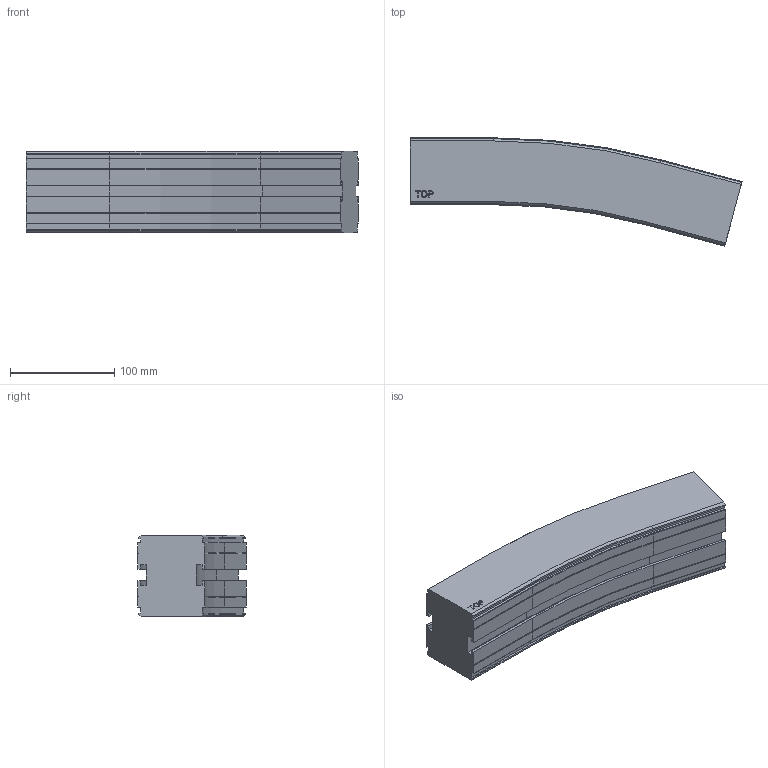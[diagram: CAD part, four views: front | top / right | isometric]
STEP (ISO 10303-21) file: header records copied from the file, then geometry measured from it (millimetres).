
FILE_DESCRIPTION((''),'2;1');
FILE_NAME('C:\Vault Klient\Projekt\Koncept konstruktion\Serie 620 Balk\620-5330.stp','2009-11-26T15:19:57',('Mathias'),(''),'Autodesk Inventor 2010','Autodesk Inventor 2010','');
FILE_SCHEMA(('AUTOMOTIVE_DESIGN { 1 0 10303 214 1 1 1 1 }'));
Length unit declared in the file: millimetre
Products named in the file (1): 620-5330
Bounding box: 318 x 103.68 x 78 mm (x, y, z)
Volume: 1461163.1 mm3; surface area: 122582.3 mm2
Topology: 1 solids, 1 shells, 169 faces, 446 edges, 284 vertices
Faces by surface type: plane 109, cylinder 30, bspline 14, cone 12, torus 4
Entity records: 5295 total; most frequent: CARTESIAN_POINT 1094, ORIENTED_EDGE 892, DIRECTION 802, EDGE_CURVE 446, VECTOR 346, LINE 346, VERTEX_POINT 284, AXIS2_PLACEMENT_3D 228
